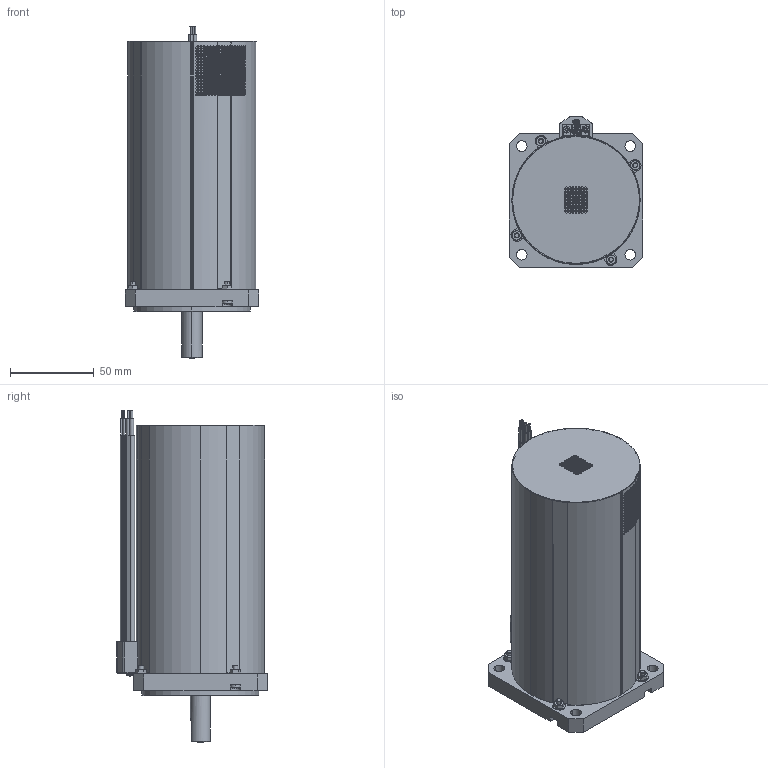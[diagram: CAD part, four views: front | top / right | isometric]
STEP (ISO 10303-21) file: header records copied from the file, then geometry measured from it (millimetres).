
FILE_DESCRIPTION (( 'STEP AP214' ), '1' );
FILE_NAME ('CPHB80 G H.STEP', '2021-09-17T00:52:45', ( '' ), ( '' ), 'SwSTEP 2.0', 'SolidWorks 2016', '' );
FILE_SCHEMA (( 'AUTOMOTIVE_DESIGN' ));
Length unit declared in the file: millimetre
Products named in the file (1): CPHB80 G H
Bounding box: 80 x 90.05 x 198.8 mm (x, y, z)
Volume: 139109.9 mm3; surface area: 126661 mm2
Topology: 1 solids, 3 shells, 7242 faces, 21434 edges, 14171 vertices
Faces by surface type: bspline 3753, cylinder 1861, plane 1544, cone 72, torus 8, sphere 4
Entity records: 281988 total; most frequent: CARTESIAN_POINT 105214, ORIENTED_EDGE 42860, DIRECTION 24315, EDGE_CURVE 21430, VERTEX_POINT 14171, VECTOR 9885, LINE 9885, EDGE_LOOP 8761
